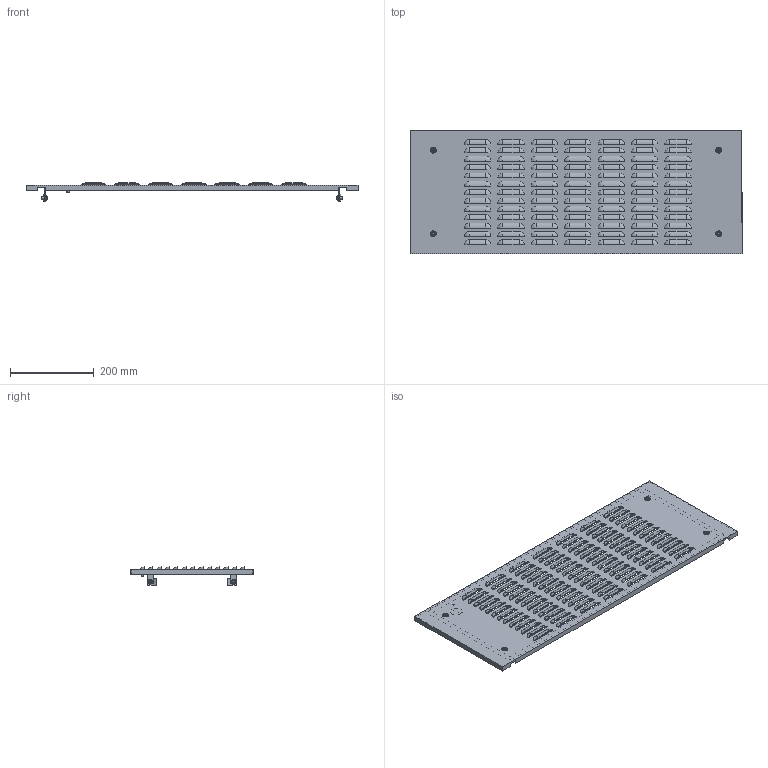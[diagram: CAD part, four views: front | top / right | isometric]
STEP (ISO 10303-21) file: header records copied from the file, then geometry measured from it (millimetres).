
FILE_DESCRIPTION (( 'STEP AP214' ), '1' );
FILE_NAME ('FO-00-PWSV-030-080 Ôàëüø-ïàíåëü âíåøíÿÿ âåíòèëèðóåìàÿ 300õ800 ìì.STEP', '2025-08-25T06:39:24', ( '' ), ( '' ), 'SwSTEP 2.0', 'SolidWorks 2023', '' );
FILE_SCHEMA (( 'AUTOMOTIVE_DESIGN' ));
Length unit declared in the file: millimetre
Products named in the file (1): FO-00-PWSV-030-080 Фальш-панель внешняя вентилируемая 300х800 мм
Bounding box: 795 x 296 x 43.5 mm (x, y, z)
Volume: 617393.7 mm3; surface area: 586117.3 mm2
Topology: 1 solids, 10 shells, 1847 faces, 5088 edges, 2917 vertices
Faces by surface type: plane 771, cylinder 626, sphere 364, cone 62, torus 24
Entity records: 56845 total; most frequent: DIRECTION 10538, CARTESIAN_POINT 10059, ORIENTED_EDGE 9444, EDGE_CURVE 4722, AXIS2_PLACEMENT_3D 4000, VERTEX_POINT 2917, LINE 2538, VECTOR 2538
